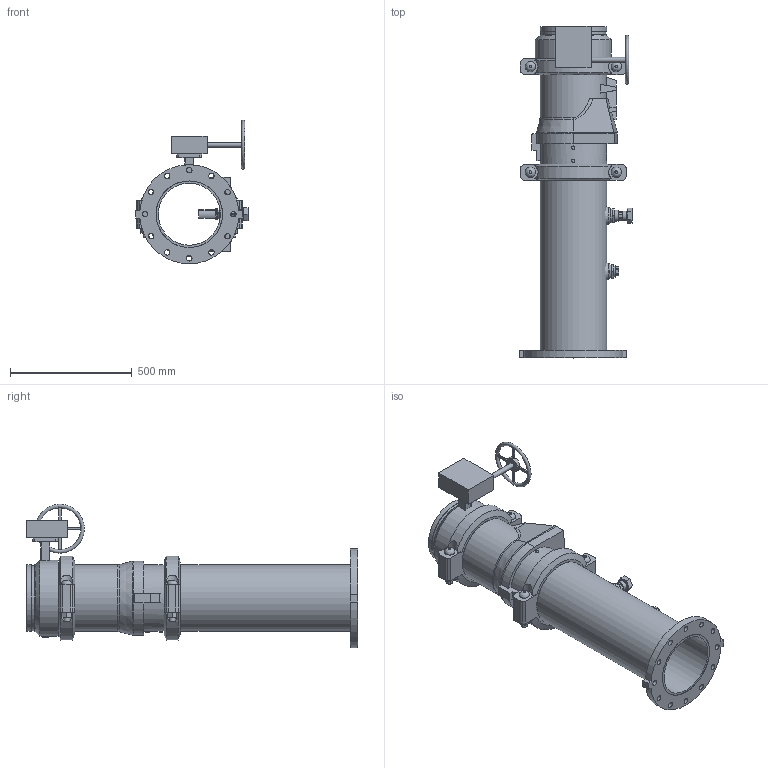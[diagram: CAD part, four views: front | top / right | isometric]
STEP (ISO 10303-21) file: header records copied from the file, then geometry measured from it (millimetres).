
FILE_DESCRIPTION(/* description */ ('VIC DVI PUMP DROP VERT S/380 (OGSxFLG) (S/924-1.25)','CAx-IF Rec.Pracs.---Representation and Presentation of Product Manufacturing Information (PMI)---4.0---2014-10-13'),/* implementation_level */ '2;1');
FILE_NAME(/* name */ 'C:\Users\Public\Documents\Victaulic.Temp\A765\Victaulic_IPS_Vertical DVI_CL 150_Series 380 (OGSxFLG)_924 (1.25)_10.0x10.0 (250x250).stp',/* time_stamp */ '2022-07-25T11:14:32+02:00',/* author */ ('Vjadhav'),/* organization */ ('Victaulic'),/* preprocessor_version */ 'ST-DEVELOPER v18',/* originating_system */ 'Autodesk Inventor 2020',/* authorisation */ '');
FILE_SCHEMA (('AP242_MANAGED_MODEL_BASED_3D_ENGINEERING_MIM_LF { 1 0 10303 442 1 1 4 }'));
Length unit declared in the file: inch
Products named in the file (8): 380_924 (1.25)-10.0x10.0; 741-10.0; Pipe-10.0x10.0; 779-10.0; 923-10.0x0.75; 924-10.0x01.25; 761-10.0; 077-10.0
Assembly tree (8 placements, depth 2):
  380_924 (1.25)-10.0x10.0
    741-10.0
    Pipe-10.0x10.0
    779-10.0
    923-10.0x0.75
    924-10.0x01.25
    761-10.0
    077-10.0  x2
Bounding box: 460.25 x 1361.69 x 588.75 mm (x, y, z)
Volume: 26187781.6 mm3; surface area: 3505510.1 mm2
Topology: 8 solids, 14 shells, 433 faces, 1091 edges, 741 vertices
Faces by surface type: plane 266, cylinder 140, cone 14, torus 7, bspline 6
Full cylindrical faces by diameter (mm): 10.922 x4, 12.7 x1, 13.716 x4, 20.066 x1, 21.336 x2, 22.225 x12, 22.86 x1, 25.4 x8, 26.67 x2, 27.432 x4, 38.608 x1, 42.164 x1, 45.974 x4, 48.514 x1, 55.626 x2, 63.079 x1, 70.104 x1, 76.2 x1, 254.508 x3, 264.16 x2, 268.275 x6, 273.05 x16, 311.15 x1
Entity records: 12684 total; most frequent: CARTESIAN_POINT 2570, DIRECTION 2049, ORIENTED_EDGE 1892, EDGE_CURVE 946, AXIS2_PLACEMENT_3D 772, VERTEX_POINT 643, LINE 505, VECTOR 505
